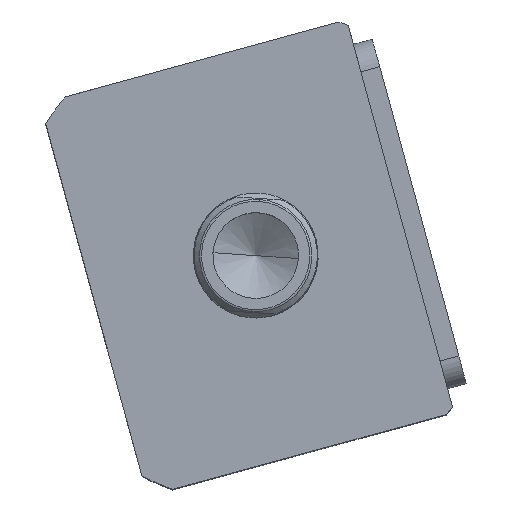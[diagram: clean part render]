
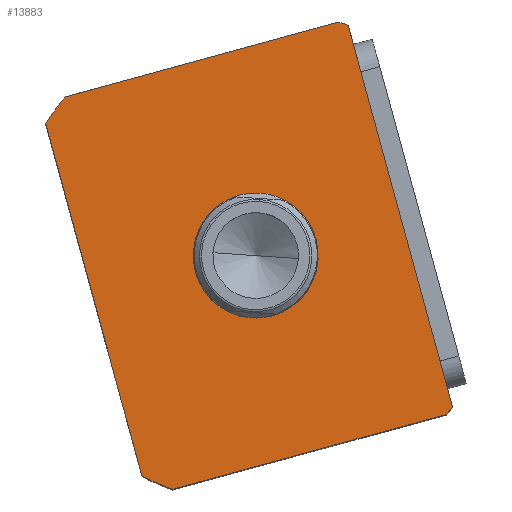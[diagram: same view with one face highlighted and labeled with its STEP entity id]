
A CAD part, top view. The second image highlights one B-rep face of the part: STEP entity #13883.
In plain terms, the highlighted planar face has unit normal (0, 0, 1) as drawn and (0, 0, -1) by its records, which use the part's own axes.
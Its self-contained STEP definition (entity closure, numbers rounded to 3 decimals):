
#246 = ORIENTED_EDGE ( 'NONE', *, *, #449, .F. ) ;
#449 = EDGE_CURVE ( 'NONE', #17388, #984, #2270, .T. ) ;
#984 = VERTEX_POINT ( 'NONE', #14109 ) ;
#1043 = CARTESIAN_POINT ( 'NONE',  ( -57., -37.265, 0. ) ) ;
#1569 = CARTESIAN_POINT ( 'NONE',  ( -57., -44.5, 0. ) ) ;
#1575 = CARTESIAN_POINT ( 'NONE',  ( 0., 2.5, 0. ) ) ;
#1667 = EDGE_LOOP ( 'NONE', ( #14686, #13775 ) ) ;
#1797 = DIRECTION ( 'NONE',  ( 0., 0., 1. ) ) ;
#2028 = CARTESIAN_POINT ( 'NONE',  ( 0., 2.5, 0. ) ) ;
#2270 = CIRCLE ( 'NONE', #17908, 69.5 ) ;
#2286 = CARTESIAN_POINT ( 'NONE',  ( 0., 2.5, 0. ) ) ;
#2295 = DIRECTION ( 'NONE',  ( 1., 0., 0. ) ) ;
#2405 = CARTESIAN_POINT ( 'NONE',  ( 51.198, -44.5, 0. ) ) ;
#2574 = DIRECTION ( 'NONE',  ( 0., -1., 0. ) ) ;
#3059 = DIRECTION ( 'NONE',  ( 1., 0., 0. ) ) ;
#3065 = DIRECTION ( 'NONE',  ( 1., 0., 0. ) ) ;
#3167 = ORIENTED_EDGE ( 'NONE', *, *, #3187, .F. ) ;
#3187 = EDGE_CURVE ( 'NONE', #984, #5772, #10581, .T. ) ;
#3522 = LINE ( 'NONE', #5598, #11769 ) ;
#3768 = DIRECTION ( 'NONE',  ( 1., 0., 0. ) ) ;
#4511 = AXIS2_PLACEMENT_3D ( 'NONE', #9419, #13842, #5050 ) ;
#4828 = ORIENTED_EDGE ( 'NONE', *, *, #15954, .F. ) ;
#4920 = VERTEX_POINT ( 'NONE', #6115 ) ;
#4944 = CARTESIAN_POINT ( 'NONE',  ( 17.5, 2.5, 0. ) ) ;
#5012 = EDGE_CURVE ( 'NONE', #18378, #15637, #16506, .T. ) ;
#5050 = DIRECTION ( 'NONE',  ( 1., 0., 0. ) ) ;
#5346 = DIRECTION ( 'NONE',  ( -1., 0., 0. ) ) ;
#5598 = CARTESIAN_POINT ( 'NONE',  ( 57., 44.5, 0. ) ) ;
#5638 = CARTESIAN_POINT ( 'NONE',  ( 57., -37.265, 0. ) ) ;
#5714 = EDGE_CURVE ( 'NONE', #10966, #17388, #15834, .T. ) ;
#5748 = CIRCLE ( 'NONE', #8024, 17.5 ) ;
#5772 = VERTEX_POINT ( 'NONE', #1043 ) ;
#5784 = CIRCLE ( 'NONE', #16278, 69.5 ) ;
#6115 = CARTESIAN_POINT ( 'NONE',  ( -17.5, 2.5, 0. ) ) ;
#6723 = VECTOR ( 'NONE', #2574, 1000. ) ;
#6724 = CARTESIAN_POINT ( 'NONE',  ( 57., 42.265, 0. ) ) ;
#6773 = EDGE_CURVE ( 'NONE', #4920, #18175, #15373, .T. ) ;
#6985 = DIRECTION ( 'NONE',  ( 0., 0., 1. ) ) ;
#7145 = EDGE_CURVE ( 'NONE', #18175, #4920, #5748, .T. ) ;
#7603 = LINE ( 'NONE', #1569, #18810 ) ;
#8024 = AXIS2_PLACEMENT_3D ( 'NONE', #15736, #6985, #17190 ) ;
#8397 = CARTESIAN_POINT ( 'NONE',  ( -57., 44.5, 0. ) ) ;
#8530 = ORIENTED_EDGE ( 'NONE', *, *, #5012, .F. ) ;
#8541 = FACE_OUTER_BOUND ( 'NONE', #16819, .T. ) ;
#8579 = CARTESIAN_POINT ( 'NONE',  ( 0., 2.5, 0. ) ) ;
#9419 = CARTESIAN_POINT ( 'NONE',  ( 0., 0., 0. ) ) ;
#9430 = AXIS2_PLACEMENT_3D ( 'NONE', #10575, #1797, #12055 ) ;
#9596 = CARTESIAN_POINT ( 'NONE',  ( -55.374, 44.5, 0. ) ) ;
#10045 = DIRECTION ( 'NONE',  ( 1., 0., 0. ) ) ;
#10294 = AXIS2_PLACEMENT_3D ( 'NONE', #8579, #18797, #10045 ) ;
#10568 = ORIENTED_EDGE ( 'NONE', *, *, #13093, .F. ) ;
#10575 = CARTESIAN_POINT ( 'NONE',  ( 0., 2.5, 0. ) ) ;
#10581 = LINE ( 'NONE', #8397, #6723 ) ;
#10884 = PLANE ( 'NONE',  #4511 ) ;
#10966 = VERTEX_POINT ( 'NONE', #15994 ) ;
#11144 = AXIS2_PLACEMENT_3D ( 'NONE', #1575, #11825, #3065 ) ;
#11769 = VECTOR ( 'NONE', #14372, 1000. ) ;
#11825 = DIRECTION ( 'NONE',  ( 0., 0., 1. ) ) ;
#11920 = VECTOR ( 'NONE', #5346, 1000. ) ;
#12004 = EDGE_CURVE ( 'NONE', #15637, #14743, #3522, .T. ) ;
#12055 = DIRECTION ( 'NONE',  ( 1., 0., 0. ) ) ;
#12533 = DIRECTION ( 'NONE',  ( 0., 0., 1. ) ) ;
#12903 = FACE_BOUND ( 'NONE', #1667, .T. ) ;
#13093 = EDGE_CURVE ( 'NONE', #5772, #13278, #13141, .T. ) ;
#13141 = CIRCLE ( 'NONE', #11144, 69.5 ) ;
#13278 = VERTEX_POINT ( 'NONE', #13492 ) ;
#13492 = CARTESIAN_POINT ( 'NONE',  ( -51.198, -44.5, 0. ) ) ;
#13775 = ORIENTED_EDGE ( 'NONE', *, *, #6773, .T. ) ;
#13842 = DIRECTION ( 'NONE',  ( 0., 0., 1. ) ) ;
#13883 = ADVANCED_FACE ( 'NONE', ( #12903, #8541 ), #10884, .F. ) ;
#14109 = CARTESIAN_POINT ( 'NONE',  ( -57., 42.265, 0. ) ) ;
#14372 = DIRECTION ( 'NONE',  ( 0., 1., 0. ) ) ;
#14686 = ORIENTED_EDGE ( 'NONE', *, *, #7145, .T. ) ;
#14698 = EDGE_CURVE ( 'NONE', #14743, #10966, #5784, .T. ) ;
#14743 = VERTEX_POINT ( 'NONE', #6724 ) ;
#15097 = DIRECTION ( 'NONE',  ( 0., 0., 1. ) ) ;
#15373 = CIRCLE ( 'NONE', #10294, 17.5 ) ;
#15637 = VERTEX_POINT ( 'NONE', #5638 ) ;
#15736 = CARTESIAN_POINT ( 'NONE',  ( 0., 2.5, 0. ) ) ;
#15834 = LINE ( 'NONE', #16981, #11920 ) ;
#15954 = EDGE_CURVE ( 'NONE', #13278, #18378, #7603, .T. ) ;
#15994 = CARTESIAN_POINT ( 'NONE',  ( 55.374, 44.5, 0. ) ) ;
#16278 = AXIS2_PLACEMENT_3D ( 'NONE', #2286, #12533, #3768 ) ;
#16506 = CIRCLE ( 'NONE', #9430, 69.5 ) ;
#16561 = ORIENTED_EDGE ( 'NONE', *, *, #5714, .F. ) ;
#16819 = EDGE_LOOP ( 'NONE', ( #18869, #18824, #8530, #4828, #10568, #3167, #246, #16561 ) ) ;
#16981 = CARTESIAN_POINT ( 'NONE',  ( -57., 44.5, 0. ) ) ;
#17190 = DIRECTION ( 'NONE',  ( 1., 0., 0. ) ) ;
#17388 = VERTEX_POINT ( 'NONE', #9596 ) ;
#17908 = AXIS2_PLACEMENT_3D ( 'NONE', #2028, #15097, #2295 ) ;
#18175 = VERTEX_POINT ( 'NONE', #4944 ) ;
#18378 = VERTEX_POINT ( 'NONE', #2405 ) ;
#18797 = DIRECTION ( 'NONE',  ( 0., 0., 1. ) ) ;
#18810 = VECTOR ( 'NONE', #3059, 1000. ) ;
#18824 = ORIENTED_EDGE ( 'NONE', *, *, #12004, .F. ) ;
#18869 = ORIENTED_EDGE ( 'NONE', *, *, #14698, .F. ) ;
